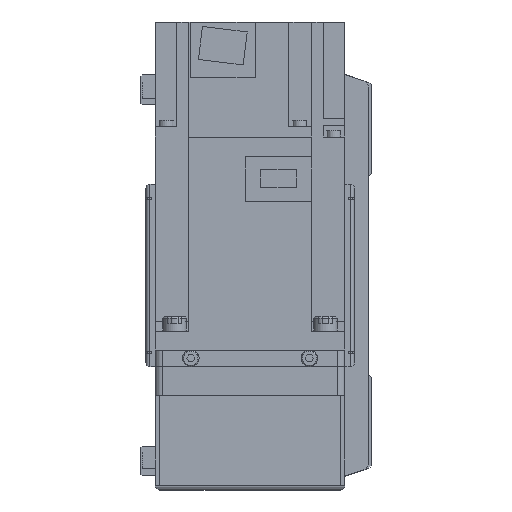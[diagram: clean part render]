
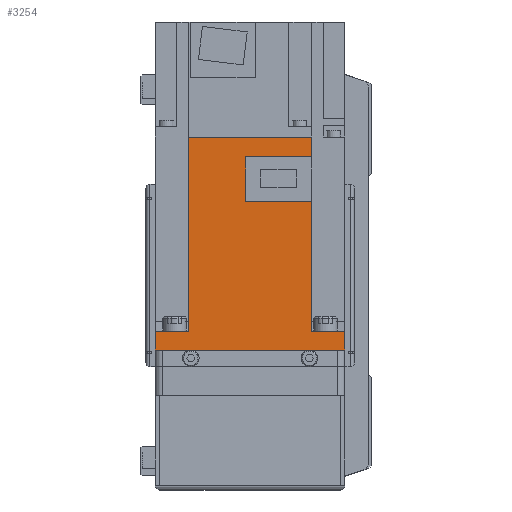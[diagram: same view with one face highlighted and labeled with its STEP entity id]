
A CAD part, left-side view. The second image highlights one B-rep face of the part: STEP entity #3254.
In plain terms, the highlighted planar face has unit normal (-1, 0, 0) as drawn and (1, 0, 0) by its records, which use the part's own axes.
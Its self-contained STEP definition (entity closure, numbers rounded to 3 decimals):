
#3254 = ADVANCED_FACE( '', ( #6756 ), #6757, .F. );
#6756 = FACE_OUTER_BOUND( '', #10250, .T. );
#6757 = PLANE( '', #10251 );
#10250 = EDGE_LOOP( '', ( #19409, #19410, #19411, #19412, #19413, #19414, #19415, #19416, #19417, #19418, #19419, #19420 ) );
#10251 = AXIS2_PLACEMENT_3D( '', #19421, #19422, #19423 );
#19409 = ORIENTED_EDGE( '', *, *, #21844, .F. );
#19410 = ORIENTED_EDGE( '', *, *, #19819, .F. );
#19411 = ORIENTED_EDGE( '', *, *, #22455, .F. );
#19412 = ORIENTED_EDGE( '', *, *, #19984, .T. );
#19413 = ORIENTED_EDGE( '', *, *, #22115, .F. );
#19414 = ORIENTED_EDGE( '', *, *, #22793, .T. );
#19415 = ORIENTED_EDGE( '', *, *, #23182, .T. );
#19416 = ORIENTED_EDGE( '', *, *, #20748, .F. );
#19417 = ORIENTED_EDGE( '', *, *, #20319, .F. );
#19418 = ORIENTED_EDGE( '', *, *, #19821, .F. );
#19419 = ORIENTED_EDGE( '', *, *, #21924, .F. );
#19420 = ORIENTED_EDGE( '', *, *, #23012, .F. );
#19421 = CARTESIAN_POINT( '', ( 40., 89.8, 40. ) );
#19422 = DIRECTION( '', ( -1., 0., 0. ) );
#19423 = DIRECTION( '', ( 0., 0., 1. ) );
#19819 = EDGE_CURVE( '', #23524, #23526, #23527, .T. );
#19821 = EDGE_CURVE( '', #23528, #23530, #23531, .T. );
#19984 = EDGE_CURVE( '', #23829, #23827, #23830, .T. );
#20319 = EDGE_CURVE( '', #23530, #24411, #24412, .T. );
#20748 = EDGE_CURVE( '', #24411, #25144, #25145, .T. );
#21844 = EDGE_CURVE( '', #23526, #26869, #26870, .T. );
#21924 = EDGE_CURVE( '', #26995, #23528, #26996, .T. );
#22115 = EDGE_CURVE( '', #27260, #23827, #27262, .T. );
#22455 = EDGE_CURVE( '', #23829, #23524, #27704, .T. );
#22793 = EDGE_CURVE( '', #27260, #28143, #28145, .T. );
#23012 = EDGE_CURVE( '', #26869, #26995, #28392, .T. );
#23182 = EDGE_CURVE( '', #28143, #25144, #28582, .T. );
#23524 = VERTEX_POINT( '', #28990 );
#23526 = VERTEX_POINT( '', #28993 );
#23527 = LINE( '', #28994, #28995 );
#23528 = VERTEX_POINT( '', #28996 );
#23530 = VERTEX_POINT( '', #28999 );
#23531 = LINE( '', #29000, #29001 );
#23827 = VERTEX_POINT( '', #29473 );
#23829 = VERTEX_POINT( '', #29476 );
#23830 = LINE( '', #29477, #29478 );
#24411 = VERTEX_POINT( '', #30322 );
#24412 = LINE( '', #30323, #30324 );
#25144 = VERTEX_POINT( '', #31447 );
#25145 = LINE( '', #31448, #31449 );
#26869 = VERTEX_POINT( '', #34263 );
#26870 = LINE( '', #34264, #34265 );
#26995 = VERTEX_POINT( '', #34436 );
#26996 = LINE( '', #34437, #34438 );
#27260 = VERTEX_POINT( '', #34802 );
#27262 = LINE( '', #34805, #34806 );
#27704 = LINE( '', #35448, #35449 );
#28143 = VERTEX_POINT( '', #36105 );
#28145 = LINE( '', #36108, #36109 );
#28392 = LINE( '', #36483, #36484 );
#28582 = LINE( '', #36750, #36751 );
#28990 = CARTESIAN_POINT( '', ( 40., 89.8, -25.95 ) );
#28993 = CARTESIAN_POINT( '', ( 40., 81.4, -25.95 ) );
#28994 = CARTESIAN_POINT( '', ( 40., 158., -25.95 ) );
#28995 = VECTOR( '', #37064, 1000. );
#28996 = CARTESIAN_POINT( '', ( 40., 62.8, -25.95 ) );
#28999 = CARTESIAN_POINT( '', ( 40., 8., -25.95 ) );
#29000 = CARTESIAN_POINT( '', ( 40., 158., -25.95 ) );
#29001 = VECTOR( '', #37066, 1000. );
#29473 = CARTESIAN_POINT( '', ( 40., 8., 25.95 ) );
#29476 = CARTESIAN_POINT( '', ( 40., 89.8, 25.95 ) );
#29477 = CARTESIAN_POINT( '', ( 40., 158., 25.95 ) );
#29478 = VECTOR( '', #37274, 1000. );
#30322 = CARTESIAN_POINT( '', ( 40., 8., -40. ) );
#30323 = CARTESIAN_POINT( '', ( 40., 8., 40. ) );
#30324 = VECTOR( '', #37715, 1000. );
#31447 = CARTESIAN_POINT( '', ( 40., 0., -40. ) );
#31448 = CARTESIAN_POINT( '', ( 40., 89.8, -40. ) );
#31449 = VECTOR( '', #38284, 1000. );
#34263 = CARTESIAN_POINT( '', ( 40., 81.4, 1.8 ) );
#34264 = CARTESIAN_POINT( '', ( 40., 81.4, -26. ) );
#34265 = VECTOR( '', #39643, 1000. );
#34436 = CARTESIAN_POINT( '', ( 40., 62.8, 1.8 ) );
#34437 = CARTESIAN_POINT( '', ( 40., 62.8, 1.8 ) );
#34438 = VECTOR( '', #39751, 1000. );
#34802 = CARTESIAN_POINT( '', ( 40., 8., 40. ) );
#34805 = CARTESIAN_POINT( '', ( 40., 8., 40. ) );
#34806 = VECTOR( '', #39968, 1000. );
#35448 = CARTESIAN_POINT( '', ( 40., 89.8, 40. ) );
#35449 = VECTOR( '', #40368, 1000. );
#36105 = CARTESIAN_POINT( '', ( 40., 0., 40. ) );
#36108 = CARTESIAN_POINT( '', ( 40., 89.8, 40. ) );
#36109 = VECTOR( '', #40720, 1000. );
#36483 = CARTESIAN_POINT( '', ( 40., 81.4, 1.8 ) );
#36484 = VECTOR( '', #40922, 1000. );
#36750 = CARTESIAN_POINT( '', ( 40., 0., 40. ) );
#36751 = VECTOR( '', #41040, 1000. );
#37064 = DIRECTION( '', ( 0., -1., 0. ) );
#37066 = DIRECTION( '', ( 0., -1., 0. ) );
#37274 = DIRECTION( '', ( 0., -1., 0. ) );
#37715 = DIRECTION( '', ( 0., 0., -1. ) );
#38284 = DIRECTION( '', ( 0., -1., 0. ) );
#39643 = DIRECTION( '', ( 0., 0., 1. ) );
#39751 = DIRECTION( '', ( 0., 0., -1. ) );
#39968 = DIRECTION( '', ( 0., 0., -1. ) );
#40368 = DIRECTION( '', ( 0., 0., -1. ) );
#40720 = DIRECTION( '', ( 0., -1., 0. ) );
#40922 = DIRECTION( '', ( 0., -1., 0. ) );
#41040 = DIRECTION( '', ( 0., 0., -1. ) );
